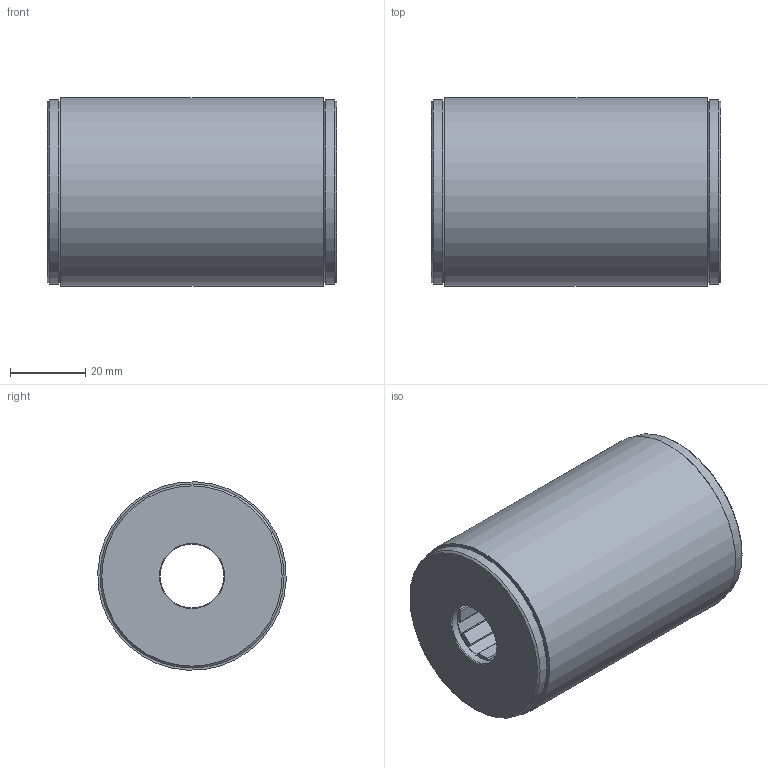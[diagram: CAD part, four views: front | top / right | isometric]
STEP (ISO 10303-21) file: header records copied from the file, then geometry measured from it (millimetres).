
FILE_DESCRIPTION(/* description */ (''),/* implementation_level */ '2;1');
FILE_NAME(/* name */ 'Rotor_STEP.stp',/* time_stamp */ '2024-11-08T07:36:50+01:00',/* author */ ('Niklas.Fischer'),/* organization */ (''),/* preprocessor_version */ 'ST-DEVELOPER v20',/* originating_system */ 'Autodesk Inventor 2024',/* authorisation */ '');
FILE_SCHEMA (('AUTOMOTIVE_DESIGN { 1 0 10303 214 3 1 1 }','PROCESS_PLANNING_SCHEMA'));
Length unit declared in the file: millimetre
Products named in the file (1): 155627
Bounding box: 77 x 50.15 x 50.15 mm (x, y, z)
Volume: 128746.8 mm3; surface area: 62815.4 mm2
Topology: 1 solids, 1 shells, 260 faces, 776 edges, 473 vertices
Faces by surface type: plane 181, cylinder 70, cone 9
Full cylindrical faces by diameter (mm): 17 x1, 20 x1, 21 x1, 49 x2, 50.2 x1
Entity records: 9094 total; most frequent: DIRECTION 1595, ORIENTED_EDGE 1552, CARTESIAN_POINT 1510, EDGE_CURVE 776, AXIS2_PLACEMENT_3D 558, LINE 479, VECTOR 479, VERTEX_POINT 473
